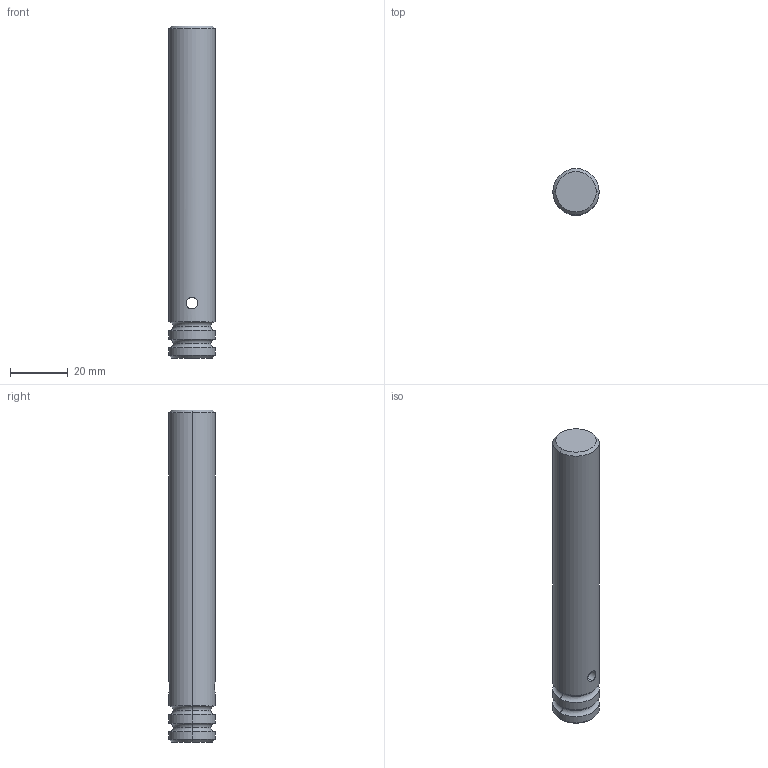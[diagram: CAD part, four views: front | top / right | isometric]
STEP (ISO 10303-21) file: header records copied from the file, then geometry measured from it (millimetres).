
FILE_DESCRIPTION (( 'STEP AP214' ), '1' );
FILE_NAME ('Bolzen gegenlager.STEP', '2016-12-28T08:50:48', ( '' ), ( '' ), 'SwSTEP 2.0', 'SolidWorks 2016', '' );
FILE_SCHEMA (( 'AUTOMOTIVE_DESIGN' ));
Length unit declared in the file: millimetre
Products named in the file (1): Bolzen gegenlager
Bounding box: 16 x 16 x 115 mm (x, y, z)
Volume: 22547.5 mm3; surface area: 6409.3 mm2
Topology: 1 solids, 1 shells, 22 faces, 44 edges, 24 vertices
Faces by surface type: torus 8, cylinder 8, cone 4, plane 2
Entity records: 706 total; most frequent: CARTESIAN_POINT 199, DIRECTION 114, ORIENTED_EDGE 88, AXIS2_PLACEMENT_3D 51, EDGE_CURVE 44, CIRCLE 28, VERTEX_POINT 24, EDGE_LOOP 24
